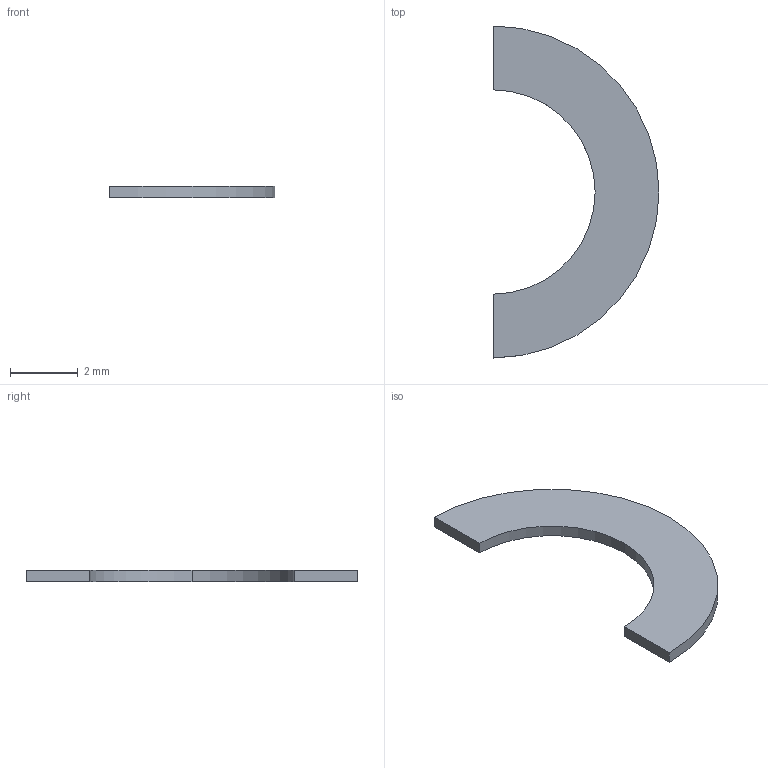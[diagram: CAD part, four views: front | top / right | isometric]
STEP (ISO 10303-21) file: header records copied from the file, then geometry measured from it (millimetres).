
FILE_DESCRIPTION(('Open CASCADE Model'),'2;1');
FILE_NAME('Open CASCADE Shape Model','2026-09-24T19:52:59',('Author'),( 'Open CASCADE'),'Open CASCADE STEP processor 7.8','Open CASCADE 7.8' ,'Unknown');
FILE_SCHEMA(('AUTOMOTIVE_DESIGN { 1 0 10303 214 1 1 1 1 }'));
Length unit declared in the file: millimetre
Products named in the file (1): Open CASCADE STEP translator 7.8 41
Bounding box: 4.9 x 9.8 x 0.35 mm (x, y, z)
Volume: 8.2 mm3; surface area: 56.9 mm2
Topology: 1 solids, 1 shells, 8 faces, 18 edges, 12 vertices
Faces by surface type: cylinder 4, plane 4
Entity records: 458 total; most frequent: CARTESIAN_POINT 91, DIRECTION 64, ORIENTED_EDGE 36, PCURVE 36, DEFINITIONAL_REPRESENTATION 36, LINE 22, VECTOR 22, EDGE_CURVE 18
